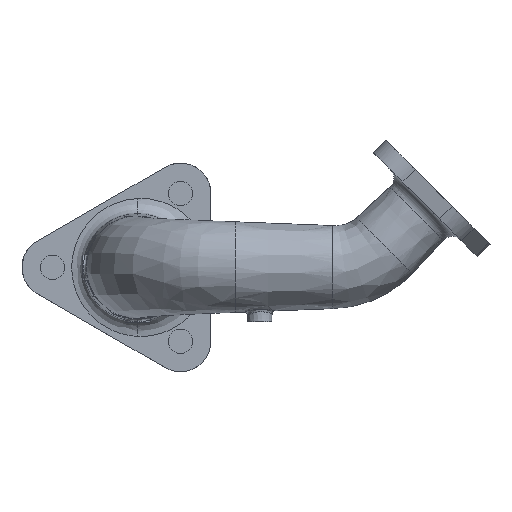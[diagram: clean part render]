
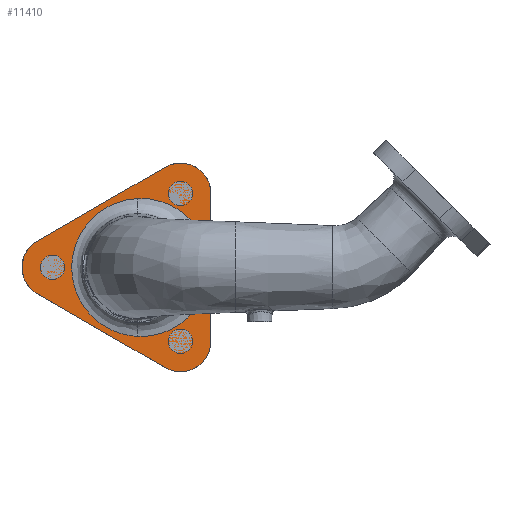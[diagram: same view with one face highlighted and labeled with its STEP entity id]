
A CAD part, top view. The second image highlights one B-rep face of the part: STEP entity #11410.
In plain terms, the highlighted planar face has unit normal (0, 0, 1).
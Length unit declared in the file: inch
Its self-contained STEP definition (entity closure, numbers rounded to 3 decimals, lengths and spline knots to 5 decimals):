
#11036=CARTESIAN_POINT('Vertex',(1.125,-4.11362,0.625)) ;
#11039=CARTESIAN_POINT('Line Origine',(-1.5,-2.59808,0.625)) ;
#11043=CARTESIAN_POINT('Vertex',(-4.125,-1.08253,0.625)) ;
#11067=CARTESIAN_POINT('Vertex',(3.,-3.03109,0.625)) ;
#11070=CARTESIAN_POINT('Axis2P3D Location',(1.75,-3.03109,0.625)) ;
#11091=CARTESIAN_POINT('Vertex',(3.,3.03109,0.625)) ;
#11094=CARTESIAN_POINT('Line Origine',(3.,0.,0.625)) ;
#11115=CARTESIAN_POINT('Vertex',(1.125,4.11362,0.625)) ;
#11118=CARTESIAN_POINT('Axis2P3D Location',(1.75,3.03109,0.625)) ;
#11139=CARTESIAN_POINT('Vertex',(-4.125,1.08253,0.625)) ;
#11142=CARTESIAN_POINT('Line Origine',(-1.5,2.59808,0.625)) ;
#11159=CARTESIAN_POINT('Axis2P3D Location',(-3.5,0.,0.625)) ;
#11322=CARTESIAN_POINT('Axis2P3D Location',(0.,0.,0.625)) ;
#11336=CARTESIAN_POINT('Control Point',(0.,2.82686,0.625)) ;
#11337=CARTESIAN_POINT('Control Point',(-0.22653,2.81717,0.625)) ;
#11338=CARTESIAN_POINT('Control Point',(-0.45403,2.78468,0.625)) ;
#11339=CARTESIAN_POINT('Control Point',(-0.67844,2.72874,0.625)) ;
#11340=CARTESIAN_POINT('Control Point',(-1.09605,2.57754,0.625)) ;
#11341=CARTESIAN_POINT('Control Point',(-1.47415,2.34983,0.625)) ;
#11342=CARTESIAN_POINT('Control Point',(-1.64377,2.22447,0.625)) ;
#11343=CARTESIAN_POINT('Control Point',(-1.9156,1.9819,0.625)) ;
#11344=CARTESIAN_POINT('Control Point',(-2.14304,1.70273,0.625)) ;
#11345=CARTESIAN_POINT('Control Point',(-2.23146,1.57789,0.625)) ;
#11346=CARTESIAN_POINT('Control Point',(-2.40306,1.29786,0.625)) ;
#11347=CARTESIAN_POINT('Control Point',(-2.53362,0.99405,0.625)) ;
#11348=CARTESIAN_POINT('Control Point',(-2.59142,0.82494,0.625)) ;
#11349=CARTESIAN_POINT('Control Point',(-2.65409,0.58062,0.625)) ;
#11350=CARTESIAN_POINT('Control Point',(-2.6895,0.32407,0.625)) ;
#11351=CARTESIAN_POINT('Control Point',(-2.69722,0.251,0.625)) ;
#11352=CARTESIAN_POINT('Control Point',(-2.7151,0.00529,0.625)) ;
#11353=CARTESIAN_POINT('Control Point',(-2.70612,-0.24914,0.625)) ;
#11354=CARTESIAN_POINT('Control Point',(-2.68548,-0.4297,0.625)) ;
#11355=CARTESIAN_POINT('Control Point',(-2.60314,-0.84365,0.625)) ;
#11356=CARTESIAN_POINT('Control Point',(-2.43963,-1.24751,0.625)) ;
#11357=CARTESIAN_POINT('Control Point',(-2.32169,-1.46607,0.625)) ;
#11358=CARTESIAN_POINT('Control Point',(-2.04702,-1.86165,0.625)) ;
#11359=CARTESIAN_POINT('Control Point',(-1.69507,-2.19075,0.625)) ;
#11360=CARTESIAN_POINT('Control Point',(-1.51021,-2.33074,0.625)) ;
#11361=CARTESIAN_POINT('Control Point',(-1.15401,-2.54744,0.625)) ;
#11362=CARTESIAN_POINT('Control Point',(-0.77337,-2.69378,0.625)) ;
#11363=CARTESIAN_POINT('Control Point',(-0.59948,-2.74496,0.625)) ;
#11364=CARTESIAN_POINT('Control Point',(-0.37463,-2.79247,0.625)) ;
#11365=CARTESIAN_POINT('Control Point',(-0.14955,-2.81712,0.625)) ;
#11366=CARTESIAN_POINT('Control Point',(-0.09968,-2.82147,0.625)) ;
#11367=CARTESIAN_POINT('Control Point',(-0.04982,-2.82471,0.625)) ;
#11368=CARTESIAN_POINT('Control Point',(0.,-2.82686,0.625)) ;
#11369=CARTESIAN_POINT('Vertex',(0.,-2.82686,0.625)) ;
#11371=CARTESIAN_POINT('Vertex',(0.,2.82686,0.625)) ;
#11375=CARTESIAN_POINT('Control Point',(0.,2.82686,0.625)) ;
#11376=CARTESIAN_POINT('Control Point',(0.23404,2.83686,0.625)) ;
#11377=CARTESIAN_POINT('Control Point',(0.47261,2.82276,0.625)) ;
#11378=CARTESIAN_POINT('Control Point',(0.71226,2.78294,0.625)) ;
#11379=CARTESIAN_POINT('Control Point',(1.20703,2.64414,0.625)) ;
#11380=CARTESIAN_POINT('Control Point',(1.66894,2.39132,0.625)) ;
#11381=CARTESIAN_POINT('Control Point',(1.89522,2.22898,0.625)) ;
#11382=CARTESIAN_POINT('Control Point',(2.28017,1.87292,0.625)) ;
#11383=CARTESIAN_POINT('Control Point',(2.57617,1.43478,0.625)) ;
#11384=CARTESIAN_POINT('Control Point',(2.69165,1.21576,0.625)) ;
#11385=CARTESIAN_POINT('Control Point',(2.83904,0.84264,0.625)) ;
#11386=CARTESIAN_POINT('Control Point',(2.91878,0.44822,0.625)) ;
#11387=CARTESIAN_POINT('Control Point',(2.93907,0.29504,0.625)) ;
#11388=CARTESIAN_POINT('Control Point',(2.96422,-0.10195,0.625)) ;
#11389=CARTESIAN_POINT('Control Point',(2.91904,-0.50389,0.625)) ;
#11390=CARTESIAN_POINT('Control Point',(2.86449,-0.74731,0.625)) ;
#11391=CARTESIAN_POINT('Control Point',(2.69234,-1.24731,0.625)) ;
#11392=CARTESIAN_POINT('Control Point',(2.40763,-1.69843,0.625)) ;
#11393=CARTESIAN_POINT('Control Point',(2.22923,-1.91574,0.625)) ;
#11394=CARTESIAN_POINT('Control Point',(1.89042,-2.23742,0.625)) ;
#11395=CARTESIAN_POINT('Control Point',(1.50087,-2.48012,0.625)) ;
#11396=CARTESIAN_POINT('Control Point',(1.33764,-2.56409,0.625)) ;
#11397=CARTESIAN_POINT('Control Point',(1.01148,-2.69998,0.625)) ;
#11398=CARTESIAN_POINT('Control Point',(0.67306,-2.78284,0.625)) ;
#11399=CARTESIAN_POINT('Control Point',(0.5071,-2.81056,0.625)) ;
#11400=CARTESIAN_POINT('Control Point',(0.30582,-2.82916,0.625)) ;
#11401=CARTESIAN_POINT('Control Point',(0.1036,-2.82973,0.625)) ;
#11402=CARTESIAN_POINT('Control Point',(0.06909,-2.8293,0.625)) ;
#11403=CARTESIAN_POINT('Control Point',(0.03455,-2.82834,0.625)) ;
#11404=CARTESIAN_POINT('Control Point',(0.,-2.82686,0.625)) ;
#11041=VECTOR('Line Direction',#11040,0.03937) ;
#11096=VECTOR('Line Direction',#11095,0.03937) ;
#11144=VECTOR('Line Direction',#11143,0.03937) ;
#11040=DIRECTION('Vector Direction',(0.034,-0.02,0.)) ;
#11071=DIRECTION('Axis2P3D Direction',(0.,0.,-0.039)) ;
#11095=DIRECTION('Vector Direction',(0.,-0.039,0.)) ;
#11119=DIRECTION('Axis2P3D Direction',(0.,0.,-0.039)) ;
#11143=DIRECTION('Vector Direction',(-0.034,-0.02,0.)) ;
#11160=DIRECTION('Axis2P3D Direction',(0.,0.,-0.039)) ;
#11323=DIRECTION('Axis2P3D Direction',(0.,0.,-0.039)) ;
#11324=DIRECTION('Axis2P3D XDirection',(-0.039,0.,0.)) ;
#11072=AXIS2_PLACEMENT_3D('Circle Axis2P3D',#11070,#11071,$) ;
#11120=AXIS2_PLACEMENT_3D('Circle Axis2P3D',#11118,#11119,$) ;
#11161=AXIS2_PLACEMENT_3D('Circle Axis2P3D',#11159,#11160,$) ;
#11325=AXIS2_PLACEMENT_3D('Plane Axis2P3D',#11322,#11323,#11324) ;
#11042=LINE('Line',#11039,#11041) ;
#11097=LINE('Line',#11094,#11096) ;
#11145=LINE('Line',#11142,#11144) ;
#11073=CIRCLE('generated circle',#11072,1.25) ;
#11121=CIRCLE('generated circle',#11120,1.25) ;
#11162=CIRCLE('generated circle',#11161,1.25) ;
#11326=PLANE('',#11325) ;
#11409=FACE_BOUND('',#11406,.T.) ;
#11045=EDGE_CURVE('',#11037,#11044,#11042,.F.) ;
#11074=EDGE_CURVE('',#11068,#11037,#11073,.T.) ;
#11098=EDGE_CURVE('',#11092,#11068,#11097,.T.) ;
#11122=EDGE_CURVE('',#11116,#11092,#11121,.T.) ;
#11146=EDGE_CURVE('',#11140,#11116,#11145,.F.) ;
#11163=EDGE_CURVE('',#11044,#11140,#11162,.T.) ;
#11373=EDGE_CURVE('',#11370,#11372,#11335,.F.) ;
#11405=EDGE_CURVE('',#11372,#11370,#11374,.T.) ;
#11327=EDGE_LOOP('',(#11328,#11329,#11330,#11331,#11332,#11333)) ;
#11406=EDGE_LOOP('',(#11407,#11408)) ;
#11328=ORIENTED_EDGE('',*,*,#11045,.F.) ;
#11329=ORIENTED_EDGE('',*,*,#11074,.F.) ;
#11330=ORIENTED_EDGE('',*,*,#11098,.F.) ;
#11331=ORIENTED_EDGE('',*,*,#11122,.F.) ;
#11332=ORIENTED_EDGE('',*,*,#11146,.F.) ;
#11333=ORIENTED_EDGE('',*,*,#11163,.F.) ;
#11407=ORIENTED_EDGE('',*,*,#11373,.T.) ;
#11408=ORIENTED_EDGE('',*,*,#11405,.T.) ;
#11037=VERTEX_POINT('',#11036) ;
#11044=VERTEX_POINT('',#11043) ;
#11068=VERTEX_POINT('',#11067) ;
#11092=VERTEX_POINT('',#11091) ;
#11116=VERTEX_POINT('',#11115) ;
#11140=VERTEX_POINT('',#11139) ;
#11370=VERTEX_POINT('',#11369) ;
#11372=VERTEX_POINT('',#11371) ;
#11410=ADVANCED_FACE('PartBody',(#11334,#11409),#11326,.F.) ;
#11335=B_SPLINE_CURVE_WITH_KNOTS('',5,(#11336,#11337,#11338,#11339,#11340,#11341,#11342,#11343,#11344,#11345,#11346,#11347,#11348,#11349,#11350,#11351,#11352,#11353,#11354,#11355,#11356,#11357,#11358,#11359,#11360,#11361,#11362,#11363,#11364,#11365,#11366,#11367,#11368),.UNSPECIFIED.,.F.,.U.,(6,3,3,3,3,3,3,3,3,3,6),(0.,43.73328,84.09247,114.04265,148.50469,161.98908,193.26561,233.44998,270.88718,301.4443,310.14344),.UNSPECIFIED.) ;
#11374=B_SPLINE_CURVE_WITH_KNOTS('',5,(#11375,#11376,#11377,#11378,#11379,#11380,#11381,#11382,#11383,#11384,#11385,#11386,#11387,#11388,#11389,#11390,#11391,#11392,#11393,#11394,#11395,#11396,#11397,#11398,#11399,#11400,#11401,#11402,#11403,#11404),.UNSPECIFIED.,.F.,.U.,(6,3,3,3,3,3,3,3,3,6),(0.,45.18212,94.50817,137.53816,164.17149,205.84292,252.04982,283.1774,312.52386,318.55953),.UNSPECIFIED.) ;
#11334=FACE_OUTER_BOUND('',#11327,.T.) ;
